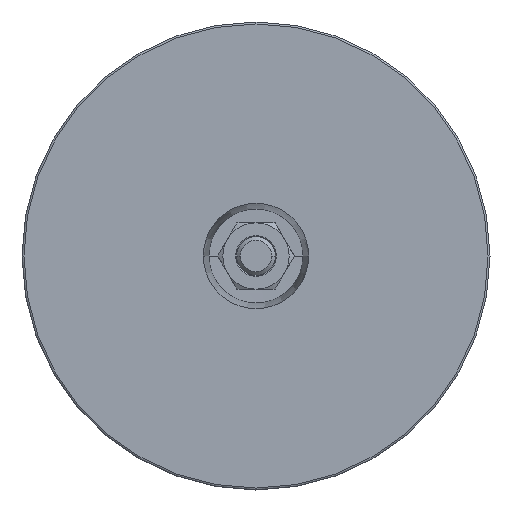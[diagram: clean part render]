
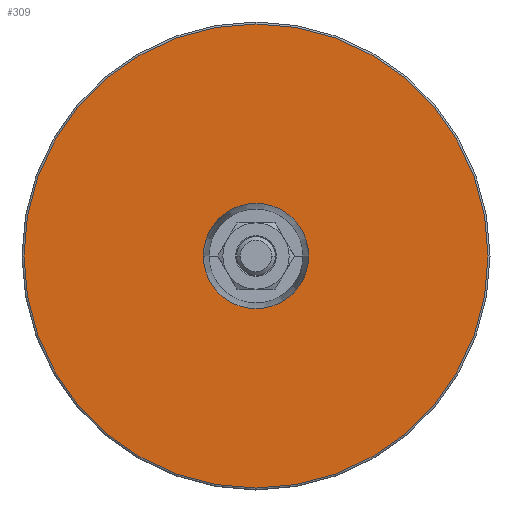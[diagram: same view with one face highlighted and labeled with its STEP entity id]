
A CAD part, front view. The second image highlights one B-rep face of the part: STEP entity #309.
In plain terms, the highlighted planar face has unit normal (0, -1, 0).
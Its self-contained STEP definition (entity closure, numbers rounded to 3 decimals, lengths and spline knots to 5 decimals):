
#309=ADVANCED_FACE('250:1010',(#515,#516),#517,.T.);
#515=FACE_OUTER_BOUND('',#2092,.T.);
#516=FACE_BOUND('',#2093,.T.);
#517=PLANE('',#2094);
#2092=EDGE_LOOP('',(#2741,#2742));
#2093=EDGE_LOOP('',(#2743,#2744));
#2094=AXIS2_PLACEMENT_3D('',#2745,#2746,#2747);
#2741=ORIENTED_EDGE('',*,*,#3124,.F.);
#2742=ORIENTED_EDGE('',*,*,#3108,.F.);
#2743=ORIENTED_EDGE('',*,*,#3087,.T.);
#2744=ORIENTED_EDGE('',*,*,#3127,.T.);
#2745=CARTESIAN_POINT('',(0.0595,0.,0.0));
#2746=DIRECTION('',(0.0,-1.0,0.0));
#2747=DIRECTION('',(0.0,0.0,-1.0));
#3087=EDGE_CURVE('250:2126',#3429,#3426,#3430,.T.);
#3108=EDGE_CURVE('250:2105',#3464,#3467,#3468,.T.);
#3124=EDGE_CURVE('250:2105',#3467,#3464,#3490,.T.);
#3127=EDGE_CURVE('250:2126',#3426,#3429,#3493,.T.);
#3426=VERTEX_POINT('',#17584);
#3429=VERTEX_POINT('',#17588);
#3430=CIRCLE('',#17589,0.0135);
#3464=VERTEX_POINT('',#17628);
#3467=VERTEX_POINT('',#17631);
#3468=CIRCLE('',#17632,0.0595);
#3490=CIRCLE('',#17658,0.0595);
#3493=CIRCLE('',#17661,0.0135);
#17584=CARTESIAN_POINT('',(0.0135,0.0,0.));
#17588=CARTESIAN_POINT('',(-0.0135,0.0,0.));
#17589=AXIS2_PLACEMENT_3D('',#18127,#18128,#18129);
#17628=CARTESIAN_POINT('',(0.,0.,0.0595));
#17631=CARTESIAN_POINT('',(0.,0.,-0.0595));
#17632=AXIS2_PLACEMENT_3D('',#18180,#18181,#18182);
#17658=AXIS2_PLACEMENT_3D('',#18220,#18221,#18222);
#17661=AXIS2_PLACEMENT_3D('',#18229,#18230,#18231);
#18127=CARTESIAN_POINT('',(0.0,0.0,0.0));
#18128=DIRECTION('',(-0.0,1.0,0.0));
#18129=DIRECTION('',(1.0,0.0,0.0));
#18180=CARTESIAN_POINT('',(0.0,0.,0.0));
#18181=DIRECTION('',(-0.0,1.0,0.0));
#18182=DIRECTION('',(1.0,0.0,0.0));
#18220=CARTESIAN_POINT('',(0.0,0.,0.0));
#18221=DIRECTION('',(-0.0,1.0,0.0));
#18222=DIRECTION('',(1.0,0.0,0.0));
#18229=CARTESIAN_POINT('',(0.0,0.0,0.0));
#18230=DIRECTION('',(-0.0,1.0,0.0));
#18231=DIRECTION('',(1.0,0.0,0.0));
